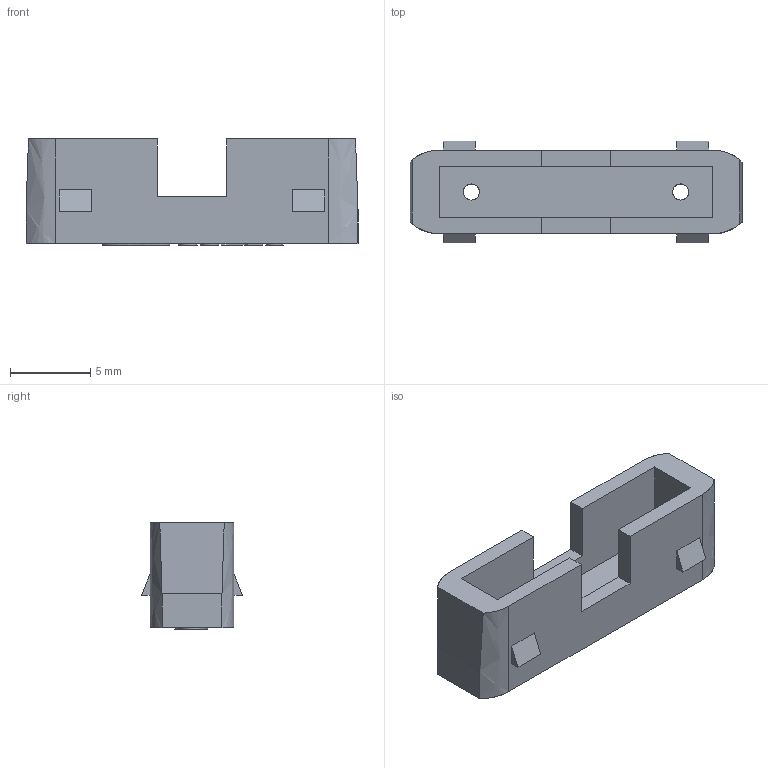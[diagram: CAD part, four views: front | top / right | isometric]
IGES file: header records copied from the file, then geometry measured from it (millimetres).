
Global section: file name: 00X-Z0E-05.igs; native system: CT CoreTechnologie 3D Evolution; preprocessor: 2.1; date: 030927.133355; units: millimetre
Bounding box: 20.63 x 6.3 x 6.6 mm (x, y, z)
Surface area: 707.4 mm2 (no closed solid volume)
Topology: 0 solids, 0 shells, 151 faces, 905 edges, 905 vertices
Faces by surface type: bspline 151
